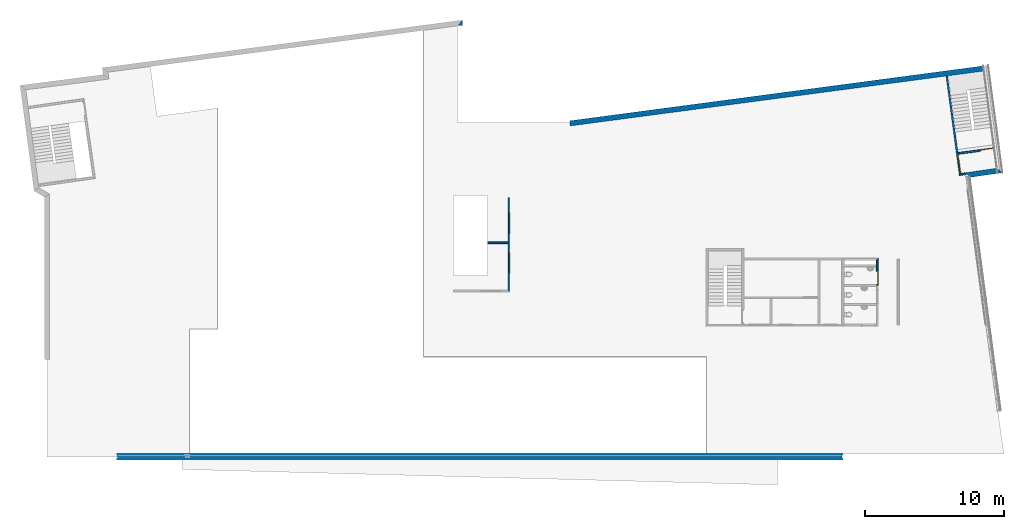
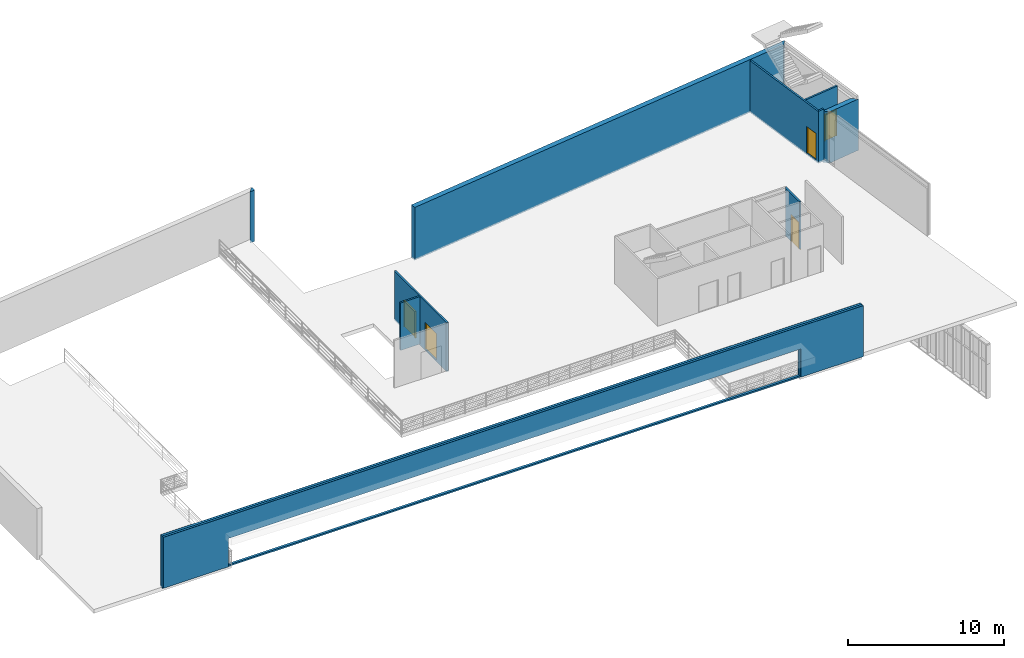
# One storey, part 9 of 17: 9 walls, 5 doors, 4 building element parts, 6 openings, 1 element without a shape of its own.
"""IFC2X3 building model written with IfcOpenShell, lengths in metres."""

from ifc_helpers import new_model, entity, si_unit, converted_unit, money_unit, direction, frame, origin_with_axes, origin_2d_with_axis, place, context, subcontext, project, spatial, polyline, rectangle, outline, extrude, faceted_brep, source, transform, mapped, material, material_list, layer, layer_set, layer_usage, type_object, element, fill, aggregate, save


model = new_model("IFC2X3")

# Units and contexts
model_context = context("Model", 3, precision=1e-05, world=origin_with_axes(), true_north=direction((0.0, 1.0)))
body_context = subcontext(model_context, "Body", "Model", "MODEL_VIEW")
ifc_project = project(units=[si_unit("LENGTHUNIT", "METRE"), si_unit("AREAUNIT", "SQUARE_METRE"), si_unit("VOLUMEUNIT", "CUBIC_METRE"), converted_unit("PLANEANGLEUNIT", "DEGREE", entity("IfcPlaneAngleMeasure", 0.0174532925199), si_unit("PLANEANGLEUNIT", "RADIAN"), dimensions=[0, 0, 0, 0, 0, 0, 0]), si_unit("SOLIDANGLEUNIT", "STERADIAN"), money_unit("EUR"), converted_unit("TIMEUNIT", "Year", entity("IfcTimeMeasure", 31556926.0), si_unit("TIMEUNIT", "SECOND"), dimensions=[0, 0, 0, 0, 0, 0, 0]), si_unit("MASSUNIT", "GRAM"), si_unit("THERMODYNAMICTEMPERATUREUNIT", "DEGREE_CELSIUS"), si_unit("LUMINOUSINTENSITYUNIT", "LUMEN")], contexts=[model_context])

# Site, building, storey
site_placement = place(None, origin_with_axes())
site = spatial("IfcSite", under=ifc_project, at=site_placement, Name="Undefined", CompositionType="ELEMENT")
building_placement = place(site_placement, origin_with_axes())
building = spatial("IfcBuilding", under=site, at=building_placement, Name="Undefined", CompositionType="ELEMENT")
storey_placement = place(building_placement, frame((0.0, 0.0, 9.425), z_axis=(0.0, 0.0, 1.0), x_axis=(1.0, 0.0, 0.0)))
storey = spatial("IfcBuildingStorey", under=building, at=storey_placement, Name="Mezzannine", CompositionType="ELEMENT", Elevation=9.425)

# Wall
ifc_material_1 = material(Name="Finition int - Enduit pl\x89tre")
ifc_layer_1 = layer(ifc_material_1, 0.015, ventilated="UNKNOWN")
ifc_material_2 = material(Name="Struct. - Parpaing b\x8eton")
ifc_layer_2 = layer(ifc_material_2, 0.1, ventilated="UNKNOWN")
ifc_layer_3 = layer(ifc_material_1, 0.015, ventilated="UNKNOWN")
ifc_layer_set_1 = layer_set([ifc_layer_1, ifc_layer_2, ifc_layer_3], Name="0.0-Cloison: parpaing + pl\x89tre 2 faces copie")
ifc_layer_usage_1 = layer_usage(ifc_layer_set_1, "AXIS2", "POSITIVE", 0.0)
wall_type_1 = type_object("IfcWallType", Name="0.0-Cloison: parpaing + pl\x89tre 2 faces copie 130", PredefinedType="NOTDEFINED")
wall_1_placement = place(storey_placement, frame((65.689457, 20.183417, -0.12), z_axis=(0.0, 0.0, 1.0), x_axis=(-0.989113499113, -0.147154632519, 0.0)))
element("IfcWallStandardCase", 1, at=wall_1_placement, inside=storey, type_object=wall_type_1, material=ifc_layer_usage_1, Name="Wall_Int_02", context=body_context, shape_type="SweptSolid", body=[
    extrude(outline(polyline([(0.0, 0.0), (0.332258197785, 0.0), (0.46420938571, 0.13), (0.0, 0.13), (0.0, 0.0)])), origin_with_axes(), (0.0, 0.0, 1.0), 4.07),
])

# Wall, opening, door
ifc_layer_usage_2 = layer_usage(ifc_layer_set_1, "AXIS2", "POSITIVE", -0.05)
wall_2_placement = place(storey_placement, frame((59.375, 12.115, 0.0), z_axis=(0.0, 0.0, 1.0), x_axis=(0.0, 1.0, 0.0)))
wall_2 = element("IfcWallStandardCase", 2, at=wall_2_placement, inside=storey, type_object=wall_type_1, material=ifc_layer_usage_2, Name="Wall_Int_05", context=body_context, shape_type="SweptSolid", body=[
    extrude(outline(polyline([(0.0, -0.05), (1.92500000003, -0.05), (1.79500000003, 0.08), (0.0, 0.08), (0.0, -0.05)])), origin_with_axes(), (0.0, 0.0, 1.0), 3.725),
])
opening_1_placement = place(wall_2_placement, frame((0.535, 0.0, 0.0), z_axis=(0.0, 0.0, 1.0), x_axis=(1.0, 0.0, 0.0)))
opening_1 = element("IfcOpeningElement", 3, at=opening_1_placement, cuts=wall_2, Name="DOOR_1000", context=body_context, shape_type="SweptSolid", body=[
    extrude(rectangle(XDim=1.0, YDim=2.1, at=origin_2d_with_axis()), frame((0.0, 0.13, 1.05), z_axis=(0.0, -1.0, 0.0), x_axis=(-1.0, 0.0, 0.0)), (0.0, 0.0, 1.0), 0.39),
    extrude(rectangle(XDim=1.0, YDim=0.105069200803, at=origin_2d_with_axis()), frame((0.0, -0.18, -0.0525346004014), z_axis=(0.0, 1.0, 0.0), x_axis=(-1.0, 0.0, 0.0)), (0.0, 0.0, 1.0), 0.167364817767),
    extrude(rectangle(XDim=1.02, YDim=2.11, at=origin_2d_with_axis()), frame((0.0, 0.21, 1.055), z_axis=(0.0, -1.0, 0.0), x_axis=(-1.0, 0.0, 0.0)), (0.0, 0.0, 1.0), 0.13),
    extrude(rectangle(XDim=1.02, YDim=2.2150692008, at=origin_2d_with_axis()), frame((0.0, -0.18, 1.0024653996), z_axis=(0.0, 1.0, 0.0), x_axis=(-1.0, 0.0, 0.0)), (0.0, 0.0, 1.0), 0.13),
])
ifc_material_3 = material(Name="Empty Fill")
ifc_material_4 = material(Name="Air Space")
ifc_material_5 = material(Name="Foreground")
ifc_material_6 = material(Name="Background Fill-International")
ifc_material_7 = material(Name="Rigid Insulation")
ifc_material_8 = material(Name="Background")
ifc_material_list_1 = material_list([ifc_material_3, ifc_material_4, ifc_material_5, ifc_material_3, ifc_material_6, ifc_material_3, ifc_material_3, ifc_material_7, ifc_material_6, ifc_material_3, ifc_material_3, ifc_material_3, ifc_material_4, ifc_material_8, ifc_material_8, ifc_material_6])
door_style_1 = type_object("IfcDoorStyle", Name="Porte 18", ConstructionType="NOTDEFINED", OperationType="SINGLE_SWING_RIGHT", ParameterTakesPrecedence=False, Sizeable=False)
shared_shape_1 = source(origin_with_axes(), body_context, "Body", "Brep", [
    faceted_brep([(-0.5, -0.02, 0.0), (0.5, -0.02, 0.0), (0.5, 0.0373648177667, -0.0101149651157), (-0.5, 0.0373648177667, -0.0101149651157), (-0.5, -0.0373648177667, -0.0984807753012), (0.5, -0.0373648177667, -0.0984807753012), (0.5, 0.02, -0.108595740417), (-0.5, 0.02, -0.108595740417)], [[[0, 1, 2, 3]], [[4, 5, 1, 0]], [[1, 5, 6, 2]], [[3, 2, 6, 7]], [[0, 3, 7, 4]], [[7, 6, 5, 4]]]),
    faceted_brep([(-0.51, -0.149, 0.0), (-0.51, -0.13, 0.0), (-0.46, -0.13, 0.0), (-0.46, -0.149, 0.0), (-0.51, -0.149, 2.11), (-0.51, -0.13, 2.11), (-0.46, -0.13, 2.06), (-0.46, -0.149, 2.06)], [[[0, 1, 2, 3]], [[4, 5, 1, 0]], [[1, 5, 6, 2]], [[3, 2, 6, 7]], [[0, 3, 7, 4]], [[7, 6, 5, 4]]]),
    faceted_brep([(0.51, -0.149, 2.11), (0.51, -0.13, 2.11), (0.46, -0.13, 2.06), (0.46, -0.149, 2.06), (0.51, -0.149, 0.0), (0.51, -0.13, 0.0), (0.46, -0.13, 0.0), (0.46, -0.149, 0.0)], [[[0, 1, 2, 3]], [[4, 5, 1, 0]], [[1, 5, 6, 2]], [[3, 2, 6, 7]], [[0, 3, 7, 4]], [[7, 6, 5, 4]]]),
    faceted_brep([(-0.51, -0.149, 2.11), (-0.51, -0.13, 2.11), (-0.46, -0.13, 2.06), (-0.46, -0.149, 2.06), (0.51, -0.149, 2.11), (0.51, -0.13, 2.11), (0.46, -0.13, 2.06), (0.46, -0.149, 2.06)], [[[0, 1, 2, 3]], [[4, 5, 1, 0]], [[1, 5, 6, 2]], [[3, 2, 6, 7]], [[0, 3, 7, 4]], [[7, 6, 5, 4]]]),
    faceted_brep([(-0.5, 0.0, -0.00352653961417), (-0.46, 0.0, -0.00352653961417), (-0.46, 0.0, 2.06), (-0.51, 0.0, 2.11), (-0.51, 0.0, -0.00352653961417), (-0.46, 0.019, -0.00687675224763), (-0.5, 0.019, -0.00687675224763), (-0.46, 0.019, 2.06), (-0.51, 0.019, 2.11), (-0.51, 0.019, -0.00687675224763)], [[[0, 1, 2, 3, 4]], [[5, 1, 0, 6]], [[1, 5, 7, 2]], [[2, 7, 8, 3]], [[3, 8, 9, 4]], [[0, 4, 9, 6]], [[6, 9, 8, 7, 5]]]),
    faceted_brep([(0.5, 0.0, -0.00352653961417), (0.51, 0.0, -0.00352653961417), (0.51, 0.0, 2.11), (0.46, 0.0, 2.06), (0.46, 0.0, -0.00352653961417), (0.5, 0.019, -0.00687675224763), (0.51, 0.019, -0.00687675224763), (0.51, 0.019, 2.11), (0.46, 0.019, 2.06), (0.46, 0.019, -0.00687675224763)], [[[0, 1, 2, 3, 4]], [[0, 5, 6, 1]], [[6, 7, 2, 1]], [[2, 7, 8, 3]], [[9, 4, 3, 8]], [[0, 4, 9, 5]], [[5, 9, 8, 7, 6]]]),
    faceted_brep([(-0.51, 0.019, 2.11), (-0.46, 0.019, 2.06), (-0.46, 0.0, 2.06), (-0.51, 0.0, 2.11), (0.51, 0.019, 2.11), (0.46, 0.019, 2.06), (0.46, 0.0, 2.06), (0.51, 0.0, 2.11)], [[[0, 1, 2, 3]], [[0, 4, 5, 1]], [[1, 5, 6, 2]], [[3, 2, 6, 7]], [[4, 0, 3, 7]], [[5, 4, 7, 6]]]),
    faceted_brep([(-0.46, -0.04, 0.0), (-0.46, -0.04, 2.06), (-0.46, -0.13, 2.06), (-0.46, -0.13, 0.0), (-0.472, -0.04, 2.06), (-0.472, -0.04, 0.0), (-0.472, 0.0, 2.06), (-0.5, 0.0, 2.06), (-0.5, -0.13, 2.06), (-0.5, -0.13, 0.0), (-0.5, 0.0, 0.0), (-0.472, 0.0, 0.0)], [[[0, 1, 2, 3]], [[4, 1, 0, 5]], [[4, 6, 7, 8, 2, 1]], [[8, 9, 3, 2]], [[5, 0, 3, 9, 10, 11]], [[6, 4, 5, 11]], [[6, 11, 10, 7]], [[8, 7, 10, 9]]]),
    faceted_brep([(0.472, -0.04, 2.06), (0.46, -0.04, 2.06), (0.46, -0.13, 2.06), (0.5, -0.13, 2.06), (0.5, 0.0, 2.06), (0.472, 0.0, 2.06), (0.472, -0.04, 0.0), (0.46, -0.04, 0.0), (0.46, -0.13, 0.0), (0.5, -0.13, 0.0), (0.5, 0.0, 0.0), (0.472, 0.0, 0.0)], [[[0, 1, 2, 3, 4, 5]], [[1, 0, 6, 7]], [[1, 7, 8, 2]], [[8, 9, 3, 2]], [[9, 10, 4, 3]], [[11, 5, 4, 10]], [[0, 5, 11, 6]], [[6, 11, 10, 9, 8, 7]]]),
    faceted_brep([(-0.472, 0.0, 2.072), (-0.472, 0.0, 2.06), (-0.5, 0.0, 2.06), (-0.5, 0.0, 2.1), (0.5, 0.0, 2.1), (0.5, 0.0, 2.06), (0.472, 0.0, 2.06), (0.472, 0.0, 2.072), (-0.472, -0.04, 2.072), (-0.472, -0.04, 2.06), (-0.46, -0.04, 2.06), (-0.46, -0.13, 2.06), (-0.5, -0.13, 2.06), (-0.5, -0.13, 2.1), (0.5, -0.13, 2.1), (0.5, -0.13, 2.06), (0.472, -0.04, 2.06), (0.46, -0.13, 2.06), (0.46, -0.04, 2.06), (0.472, -0.04, 2.072)], [[[0, 1, 2, 3, 4, 5, 6, 7]], [[1, 0, 8, 9]], [[9, 10, 11, 12, 2, 1]], [[13, 3, 2, 12]], [[14, 4, 3, 13]], [[15, 5, 4, 14]], [[16, 6, 5, 15, 17, 18]], [[7, 6, 16, 19]], [[0, 7, 19, 8]], [[16, 18, 10, 9, 8, 19]], [[10, 18, 17, 11]], [[14, 13, 12, 11, 17, 15]]]),
    faceted_brep([(0.472, 0.0, 0.0), (0.472, -0.04, 0.0), (-0.472, -0.04, 0.0), (-0.472, 0.0, 0.0), (0.472, 0.0, 2.072), (0.472, -0.04, 2.072), (-0.472, -0.04, 2.072), (-0.472, 0.0, 2.072)], [[[0, 1, 2, 3]], [[4, 5, 1, 0]], [[1, 5, 6, 2]], [[3, 2, 6, 7]], [[0, 3, 7, 4]], [[7, 6, 5, 4]]]),
])
door_1_placement = place(opening_1_placement, frame((0.5, 0.0, 0.0), z_axis=(0.0, 0.0, 1.0), x_axis=(-1.0, 0.0, 0.0)))
door_1 = element("IfcDoor", 4, at=door_1_placement, inside=storey, type_object=door_style_1, material=ifc_material_list_1, Name="DOOR_1000", ObjectType="DOOR", OverallHeight=2.1, OverallWidth=1.0, context=body_context, shape_type="MappedRepresentation", body=[
    mapped(shared_shape_1, transform((0.5, 0.05, 0.0))),
])
fill(opening_1, door_1)

# Wall, openings, doors
ifc_layer_usage_3 = layer_usage(ifc_layer_set_1, "AXIS2", "NEGATIVE", 0.0)
wall_3_placement = place(storey_placement, frame((32.9987356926, 18.4900686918, -0.12), z_axis=(0.0, 0.0, 1.0), x_axis=(0.0, -1.0, 0.0)))
wall_3 = element("IfcWallStandardCase", 5, at=wall_3_placement, inside=storey, type_object=wall_type_1, material=ifc_layer_usage_3, Name="Wall_Int_02", ObjectType="WALL", context=body_context, shape_type="SweptSolid", body=[
    extrude(outline(polyline([(0.065, -0.13), (6.71514607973, -0.13), (6.84514607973, 0.0), (0.065, 0.0), (0.065, -0.13)])), origin_with_axes(), (0.0, 0.0, 1.0), 3.845),
])
opening_2_placement = place(wall_3_placement, frame((4.775, 0.0, 0.12), z_axis=(0.0, 0.0, 1.0), x_axis=(1.0, 0.0, 0.0)))
opening_2 = element("IfcOpeningElement", 6, at=opening_2_placement, cuts=wall_3, Name="DOOR", context=body_context, shape_type="SweptSolid", body=[
    extrude(rectangle(XDim=1.5, YDim=2.1, at=origin_2d_with_axis()), frame((0.0, 0.13, 1.05), z_axis=(0.0, -1.0, 0.0), x_axis=(1.0, 0.0, 0.0)), (0.0, 0.0, 1.0), 0.13),
    extrude(rectangle(XDim=1.5, YDim=2.1, at=origin_2d_with_axis()), frame((0.0, -0.13, 1.05), z_axis=(0.0, 1.0, 0.0), x_axis=(1.0, 0.0, 0.0)), (0.0, 0.0, 1.0), 0.13),
])
opening_3_placement = place(wall_3_placement, frame((1.93098138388, 0.0, 0.12), z_axis=(0.0, 0.0, 1.0), x_axis=(1.0, 0.0, 0.0)))
opening_3 = element("IfcOpeningElement", 7, at=opening_3_placement, cuts=wall_3, Name="DOOR", context=body_context, shape_type="SweptSolid", body=[
    extrude(rectangle(XDim=1.5, YDim=2.1, at=origin_2d_with_axis()), frame((0.0, 0.13, 1.05), z_axis=(0.0, -1.0, 0.0), x_axis=(1.0, 0.0, 0.0)), (0.0, 0.0, 1.0), 0.13),
    extrude(rectangle(XDim=1.5, YDim=2.1, at=origin_2d_with_axis()), frame((0.0, -0.13, 1.05), z_axis=(0.0, 1.0, 0.0), x_axis=(1.0, 0.0, 0.0)), (0.0, 0.0, 1.0), 0.13),
])
ifc_material_list_2 = material_list([ifc_material_6, ifc_material_4])
door_style_2 = type_object("IfcDoorStyle", Name="IFC Porte double - Simple battant", ConstructionType="ALUMINIUM", OperationType="DOUBLE_DOOR_SINGLE_SWING", ParameterTakesPrecedence=True, Sizeable=False)
shared_shape_2 = source(origin_with_axes(), body_context, "Body", "Brep", [
    faceted_brep([(0.75, 0.0, 0.0), (0.75, -0.1, 0.0), (0.7, -0.1, 0.0), (0.7, 0.0, 0.0), (0.75, 0.0, 2.1), (0.75, -0.1, 2.1), (-0.75, -0.1, 2.1), (-0.75, -0.1, 0.0), (-0.7, -0.1, 0.0), (-0.7, -0.1, 2.05), (0.7, -0.1, 2.05), (0.7, 0.0, 2.05), (-0.7, 0.0, 2.05), (-0.7, 0.0, 0.0), (-0.75, 0.0, 0.0), (-0.75, 0.0, 2.1)], [[[0, 1, 2, 3]], [[4, 5, 1, 0]], [[1, 5, 6, 7, 8, 9, 10, 2]], [[3, 2, 10, 11]], [[0, 3, 11, 12, 13, 14, 15, 4]], [[15, 6, 5, 4]], [[14, 7, 6, 15]], [[13, 8, 7, 14]], [[12, 9, 8, 13]], [[11, 10, 9, 12]]]),
    faceted_brep([(-0.7, 0.0, 0.0), (-0.7, -0.04, 0.0), (-0.7, -0.04, 2.05), (-0.7, 0.0, 2.05), (0.0, 0.0, 0.0), (0.0, -0.04, 0.0), (0.0, -0.04, 2.05), (0.0, 0.0, 2.05)], [[[0, 1, 2, 3]], [[4, 5, 1, 0]], [[1, 5, 6, 2]], [[3, 2, 6, 7]], [[0, 3, 7, 4]], [[7, 6, 5, 4]]]),
    faceted_brep([(0.7, 0.0, 0.0), (0.7, -0.04, 0.0), (0.0, -0.04, 0.0), (0.0, 0.0, 0.0), (0.7, 0.0, 2.05), (0.7, -0.04, 2.05), (0.0, -0.04, 2.05), (0.0, 0.0, 2.05)], [[[0, 1, 2, 3]], [[4, 5, 1, 0]], [[1, 5, 6, 2]], [[3, 2, 6, 7]], [[0, 3, 7, 4]], [[7, 6, 5, 4]]]),
])
door_2_placement = place(opening_2_placement, frame((-0.75, 0.0, 0.0), z_axis=(0.0, 0.0, 1.0), x_axis=(1.0, 0.0, 0.0)))
door_2 = element("IfcDoor", 8, at=door_2_placement, inside=storey, type_object=door_style_2, material=ifc_material_list_2, Name="DOOR", ObjectType="DOOR", OverallHeight=2.1, OverallWidth=1.5, context=body_context, shape_type="MappedRepresentation", body=[
    mapped(shared_shape_2, transform((0.75, 0.0, 0.0))),
])
fill(opening_2, door_2)
door_3_placement = place(opening_3_placement, frame((-0.75, 0.0, 0.0), z_axis=(0.0, 0.0, 1.0), x_axis=(1.0, 0.0, 0.0)))
door_3 = element("IfcDoor", 9, at=door_3_placement, inside=storey, type_object=door_style_2, material=ifc_material_list_2, Name="DOOR", ObjectType="DOOR", OverallHeight=2.1, OverallWidth=1.5, context=body_context, shape_type="MappedRepresentation", body=[
    mapped(shared_shape_2, transform((0.75, 0.0, 0.0))),
])
fill(opening_3, door_3)

# Wall, opening, door
ifc_layer_usage_4 = layer_usage(ifc_layer_set_1, "AXIS2", "POSITIVE", 0.0)
wall_4_placement = place(storey_placement, frame((65.3608159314, 20.134523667, -0.12), z_axis=(0.0, 0.0, 1.0), x_axis=(-0.132403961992, 0.991195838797, 0.0)))
wall_4 = element("IfcWallStandardCase", 10, at=wall_4_placement, inside=storey, type_object=wall_type_1, material=ifc_layer_usage_4, Name="Wall_Int_02", context=body_context, shape_type="SweptSolid", body=[
    extrude(outline(polyline([(0.0, 0.0), (7.06998628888, 0.0), (7.06998628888, 0.13), (-0.131951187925, 0.13), (0.0, 0.0)])), origin_with_axes(), (0.0, 0.0, 1.0), 4.07),
])
opening_4_placement = place(wall_4_placement, frame((0.606120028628, 0.0, 0.12), z_axis=(0.0, 0.0, 1.0), x_axis=(1.0, 0.0, 0.0)))
opening_4 = element("IfcOpeningElement", 11, at=opening_4_placement, cuts=wall_4, Name="DOOR_1000", context=body_context, shape_type="SweptSolid", body=[
    extrude(rectangle(XDim=1.0, YDim=2.1, at=origin_2d_with_axis()), frame((0.0, -0.13, 1.05), z_axis=(0.0, 1.0, 0.0), x_axis=(1.0, 0.0, 0.0)), (0.0, 0.0, 1.0), 0.13),
    extrude(rectangle(XDim=1.0, YDim=2.1, at=origin_2d_with_axis()), frame((0.0, 0.13, 1.05), z_axis=(0.0, -1.0, 0.0), x_axis=(1.0, 0.0, 0.0)), (0.0, 0.0, 1.0), 0.13),
])
door_style_3 = type_object("IfcDoorStyle", Name="IFC Porte - Simple battant", ConstructionType="NOTDEFINED", OperationType="SINGLE_SWING_RIGHT", ParameterTakesPrecedence=True, Sizeable=False)
shared_shape_3 = source(origin_with_axes(), body_context, "Body", "Brep", [
    faceted_brep([(-0.5, 0.0, 0.0), (-0.45, 0.0, 0.0), (-0.45, -0.1, 0.0), (-0.5, -0.1, 0.0), (-0.5, 0.0, 2.1), (0.5, 0.0, 2.1), (0.5, 0.0, 0.0), (0.45, 0.0, 0.0), (0.45, 0.0, 2.05), (-0.45, 0.0, 2.05), (-0.45, -0.1, 2.05), (0.45, -0.1, 2.05), (0.45, -0.1, 0.0), (0.5, -0.1, 0.0), (0.5, -0.1, 2.1), (-0.5, -0.1, 2.1)], [[[0, 1, 2, 3]], [[0, 4, 5, 6, 7, 8, 9, 1]], [[1, 9, 10, 2]], [[3, 2, 10, 11, 12, 13, 14, 15]], [[4, 0, 3, 15]], [[5, 4, 15, 14]], [[6, 5, 14, 13]], [[7, 6, 13, 12]], [[8, 7, 12, 11]], [[9, 8, 11, 10]]]),
    faceted_brep([(0.45, 0.0, 0.0), (0.45, 0.0, 2.05), (0.45, -0.04, 2.05), (0.45, -0.04, 0.0), (-0.45, 0.0, 0.0), (-0.45, 0.0, 2.05), (-0.45, -0.04, 2.05), (-0.45, -0.04, 0.0)], [[[0, 1, 2, 3]], [[0, 4, 5, 1]], [[1, 5, 6, 2]], [[3, 2, 6, 7]], [[4, 0, 3, 7]], [[5, 4, 7, 6]]]),
])
door_4_placement = place(opening_4_placement, frame((0.5, 0.0, 0.0), z_axis=(0.0, 0.0, 1.0), x_axis=(-1.0, 0.0, 0.0)))
door_4 = element("IfcDoor", 12, at=door_4_placement, inside=storey, type_object=door_style_3, material=ifc_material_list_2, Name="DOOR_1000", ObjectType="DOOR", OverallHeight=2.1, OverallWidth=1.0, context=body_context, shape_type="MappedRepresentation", body=[
    mapped(shared_shape_3, transform((0.5, 0.0, 0.0))),
])
fill(opening_4, door_4)

# Wall
ifc_layer_usage_5 = layer_usage(ifc_layer_set_1, "AXIS2", "NEGATIVE", 0.0)
wall_5_placement = place(storey_placement, frame((32.9987356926, 15.100969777, 0.0), z_axis=(0.0, 0.0, 1.0), x_axis=(-1.0, 0.0, 0.0)))
element("IfcWallStandardCase", 13, at=wall_5_placement, inside=storey, type_object=wall_type_1, material=ifc_layer_usage_5, Name="Wall_Int_02", ObjectType="WALL", context=body_context, shape_type="SweptSolid", body=[
    extrude(outline(polyline([(0.13, -0.13), (1.57997206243, -0.13), (1.57997206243, 0.0), (0.13, 0.0), (0.13, -0.13)])), origin_with_axes(), (0.0, 0.0, 1.0), 3.725),
])

# Wall, opening, door
ifc_layer_usage_6 = layer_usage(ifc_layer_set_1, "AXIS2", "POSITIVE", 0.0)
wall_6_placement = place(storey_placement, frame((65.1767662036, 21.5123474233, 0.0), z_axis=(0.0, 0.0, 1.0), x_axis=(0.99134491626, 0.131283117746, 0.0)))
wall_6 = element("IfcWallStandardCase", 14, at=wall_6_placement, inside=storey, type_object=wall_type_1, material=ifc_layer_usage_6, Name="Wall_Int_02", context=body_context, shape_type="SweptSolid", body=[
    extrude(outline(polyline([(0.0, 0.0), (2.60361320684, 0.0), (2.60361320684, 0.13), (-0.000146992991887, 0.13), (0.0, 0.0)])), origin_with_axes(), (0.0, 0.0, 1.0), 3.95),
])
opening_5_placement = place(wall_6_placement, frame((2.10166129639, 0.0, 0.0), z_axis=(0.0, 0.0, 1.0), x_axis=(1.0, 0.0, 0.0)))
opening_5 = element("IfcOpeningElement", 15, at=opening_5_placement, cuts=wall_6, Name="DOOR_1000", context=body_context, shape_type="SweptSolid", body=[
    extrude(rectangle(XDim=1.0, YDim=2.1, at=origin_2d_with_axis()), frame((0.0, 0.26, 1.05), z_axis=(0.0, -1.0, 0.0), x_axis=(1.0, 0.0, 0.0)), (0.0, 0.0, 1.0), 0.13),
    extrude(rectangle(XDim=1.0, YDim=2.1, at=origin_2d_with_axis()), frame((0.0, 0.0, 1.05), z_axis=(0.0, 1.0, 0.0), x_axis=(1.0, 0.0, 0.0)), (0.0, 0.0, 1.0), 0.13),
])
door_style_4 = type_object("IfcDoorStyle", Name="IFC Porte - Simple battant", ConstructionType="NOTDEFINED", OperationType="SINGLE_SWING_RIGHT", ParameterTakesPrecedence=True, Sizeable=False)
door_5_placement = place(opening_5_placement, frame((-0.5, 0.0, 0.0), z_axis=(0.0, 0.0, 1.0), x_axis=(1.0, 0.0, 0.0)))
door_5 = element("IfcDoor", 16, at=door_5_placement, inside=storey, type_object=door_style_4, material=ifc_material_list_2, Name="DOOR_1000", ObjectType="DOOR", OverallHeight=2.1, OverallWidth=1.0, context=body_context, shape_type="MappedRepresentation", body=[
    mapped(shared_shape_3, transform((0.5, 0.13, 0.0))),
])
fill(opening_5, door_5)

# Walls
ifc_material_9 = material(Name="Finition ext - Cr\x8epis")
ifc_layer_4 = layer(ifc_material_9, 0.015, ventilated="UNKNOWN")
ifc_material_10 = material(Name="Isolation - Fibres de bois")
ifc_layer_5 = layer(ifc_material_10, 0.16, ventilated="UNKNOWN")
ifc_material_11 = material(Name="Struct. - B.A. banch\x8e")
ifc_layer_6 = layer(ifc_material_11, 0.18, ventilated="UNKNOWN")
ifc_layer_7 = layer(ifc_material_1, 0.015, ventilated="UNKNOWN")
ifc_layer_set_2 = layer_set([ifc_layer_4, ifc_layer_5, ifc_layer_6, ifc_layer_7], Name="1.2-Mur ext: rev\x8et ext + isol ext + ma\x8donnerie + enduit")
ifc_layer_usage_7 = layer_usage(ifc_layer_set_2, "AXIS2", "NEGATIVE", 0.0)
wall_type_2 = type_object("IfcWallType", Name="1.2-Mur ext: rev\x8et ext + isol ext + ma\x8donnerie + enduit 370", PredefinedType="NOTDEFINED")
wall_7_placement = place(storey_placement, frame((29.6202598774, 31.1461094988, -0.3), z_axis=(0.0, 0.0, 1.0), x_axis=(0.0117836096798, -0.999930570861, 0.0)))
element("IfcWallStandardCase", 17, at=wall_7_placement, inside=storey, type_object=wall_type_2, material=ifc_layer_usage_7, Name="WallEx02", ObjectType="WALL", context=body_context, shape_type="SweptSolid", body=[
    extrude(outline(polyline([(0.417235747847, -0.37), (0.395045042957, -0.37), (0.395045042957, 0.0), (0.0, 0.0), (0.417235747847, -0.37)])), origin_with_axes(), (0.0, 0.0, 1.0), 4.025),
])
ifc_layer_usage_8 = layer_usage(ifc_layer_set_2, "AXIS2", "POSITIVE", 0.0)
wall_8_placement = place(storey_placement, frame((67.3302558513, 27.9013044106, -0.12), z_axis=(0.0, 0.0, 1.0), x_axis=(-0.991305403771, -0.131581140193, 0.0)))
element("IfcWallStandardCase", 18, at=wall_8_placement, inside=storey, type_object=wall_type_2, material=ifc_layer_usage_8, Name="WallEx02", ObjectType="WALL", context=body_context, shape_type="SweptSolid", body=[
    extrude(outline(polyline([(0.0, 0.0), (30.2929172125, 0.0), (30.2929172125, 0.37), (0.370111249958, 0.37), (0.0, 0.0)])), origin_with_axes(), (0.0, 0.0, 1.0), 4.145),
])
ifc_layer_usage_9 = layer_usage(ifc_layer_set_2, "AXIS2", "POSITIVE", 0.0)
wall_9_placement = place(storey_placement, frame((66.0224440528, 19.8578230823, -0.3), z_axis=(0.0, 0.0, 1.0), x_axis=(0.989654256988, 0.143472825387, 0.0)))
element("IfcWallStandardCase", 19, at=wall_9_placement, inside=storey, type_object=wall_type_2, material=ifc_layer_usage_9, Name="SW - 013", ObjectType="WALL", context=body_context, shape_type="SweptSolid", body=[
    extrude(outline(polyline([(0.0, 0.0), (2.352644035, 0.0), (1.98716963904, 0.37), (-0.282828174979, 0.37), (0.0, 0.0)])), origin_with_axes(), (0.0, 0.0, 1.0), 4.025),
])

# Wall, opening, building element parts
wall_type_3 = type_object("IfcWallType", Name="Panneau b\x8eton iso mezz 370 x 4120", PredefinedType="NOTDEFINED")
wall_10_placement = place(storey_placement, frame((4.88014999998, -0.37, 0.0), z_axis=(0.0, 0.0, 1.0), x_axis=(1.0, 0.0, 0.0)))
wall_10 = element("IfcWall", 20, at=wall_10_placement, inside=storey, type_object=wall_type_3, Name="SW - 010", ObjectType="WALL")
opening_6_placement = place(wall_10_placement, frame((26.0830161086, 0.0, 0.0), z_axis=(0.0, 0.0, 1.0), x_axis=(1.0, 0.0, 0.0)))
element("IfcOpeningElement", 21, at=opening_6_placement, cuts=wall_10, Name="WD - 002", context=body_context, shape_type="SweptSolid", body=[
    extrude(rectangle(XDim=42.5225315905, YDim=2.225, at=origin_2d_with_axis()), frame((0.0, -0.25, 1.1125), z_axis=(0.0, 1.0, 0.0), x_axis=(1.0, 0.0, 0.0)), (0.0, 0.0, 1.0), 0.37),
    extrude(rectangle(XDim=42.5225315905, YDim=2.225, at=origin_2d_with_axis()), frame((0.0, 0.49, 1.1125), z_axis=(0.0, -1.0, 0.0), x_axis=(1.0, 0.0, 0.0)), (0.0, 0.0, 1.0), 0.37),
])
building_element_part_1_placement = place(wall_10_placement, origin_with_axes())
building_element_part_1 = element("IfcBuildingElementPart", 22, at=building_element_part_1_placement, material=ifc_material_9, context=body_context, shape_type="SweptSolid", body=[
    extrude(outline(polyline([(-0.015, 0.0), (0.0, 0.0), (0.0, 4.0), (-0.015, 4.0), (-0.015, 0.0)])), frame((0.0, 0.0, 0.0), z_axis=(-1.0, 0.0, 0.0), x_axis=(0.0, -1.0, 0.0)), (0.0, 0.0, -1.0), 51.9698499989),
])
building_element_part_2_placement = place(wall_10_placement, origin_with_axes())
building_element_part_2 = element("IfcBuildingElementPart", 23, at=building_element_part_2_placement, material=ifc_material_10, context=body_context, shape_type="SweptSolid", body=[
    extrude(outline(polyline([(-0.175, 0.0), (-0.015, 0.0), (-0.015, 4.0), (-0.175, 4.0), (-0.175, 0.0)])), frame((0.0, 0.0, 0.0), z_axis=(-1.0, 0.0, 0.0), x_axis=(0.0, -1.0, 0.0)), (0.0, 0.0, -1.0), 51.9698499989),
])
building_element_part_3_placement = place(wall_10_placement, origin_with_axes())
building_element_part_3 = element("IfcBuildingElementPart", 24, at=building_element_part_3_placement, material=ifc_material_11, context=body_context, shape_type="SweptSolid", body=[
    extrude(outline(polyline([(-0.355, -0.12), (-0.175, -0.12), (-0.175, 4.0), (-0.355, 4.0), (-0.355, -0.12)])), frame((0.0, 0.0, 0.0), z_axis=(-1.0, 0.0, 0.0), x_axis=(0.0, -1.0, 0.0)), (0.0, 0.0, -1.0), 51.9698499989),
])
building_element_part_4_placement = place(wall_10_placement, origin_with_axes())
building_element_part_4 = element("IfcBuildingElementPart", 25, at=building_element_part_4_placement, material=ifc_material_1, context=body_context, shape_type="SweptSolid", body=[
    extrude(outline(polyline([(-0.37, 0.0), (-0.355, 0.0), (-0.355, 4.0), (-0.37, 4.0), (-0.37, 0.0)])), frame((0.0, 0.0, 0.0), z_axis=(-1.0, 0.0, 0.0), x_axis=(0.0, -1.0, 0.0)), (0.0, 0.0, -1.0), 51.9698499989),
])
aggregate(wall_10, [building_element_part_1, building_element_part_2, building_element_part_3, building_element_part_4])

save(model, "model.ifc")
